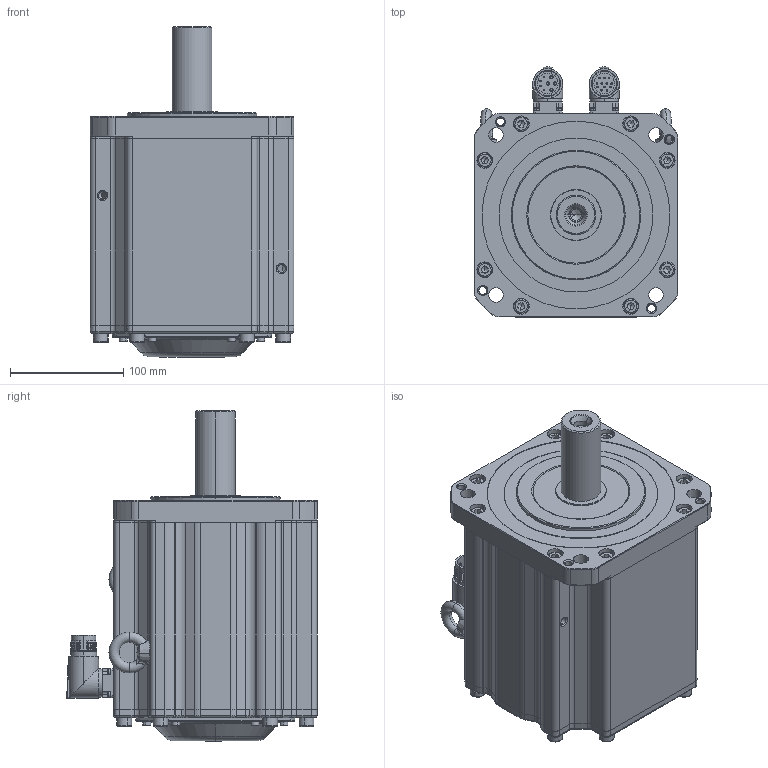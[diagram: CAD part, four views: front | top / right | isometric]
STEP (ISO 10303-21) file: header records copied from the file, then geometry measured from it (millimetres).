
FILE_DESCRIPTION (( 'STEP AP203' ), '1' );
FILE_NAME ('MC20-180-3M15-N292-1¡õPL-NNNN.STEP', '2025-07-30T13:22:43', ( '' ), ( '' ), 'SwSTEP 2.0', 'SolidWorks 2014', '' );
FILE_SCHEMA (( 'CONFIG_CONTROL_DESIGN' ));
Products named in the file (1): MC20-180-3M15-N292-1¡õPL-NNNN
Bounding box: 180 x 221.35 x 291.95 mm (x, y, z)
Volume: 7634509.2 mm3; surface area: 494912.4 mm2
Topology: 40 solids, 42 shells, 2194 faces, 5079 edges, 3029 vertices
Faces by surface type: plane 879, cylinder 578, cone 482, torus 208, bspline 47
Entity records: 64156 total; most frequent: CARTESIAN_POINT 14091, DIRECTION 10995, ORIENTED_EDGE 9938, EDGE_CURVE 4969, AXIS2_PLACEMENT_3D 4263, VERTEX_POINT 3029, LINE 2469, VECTOR 2469
